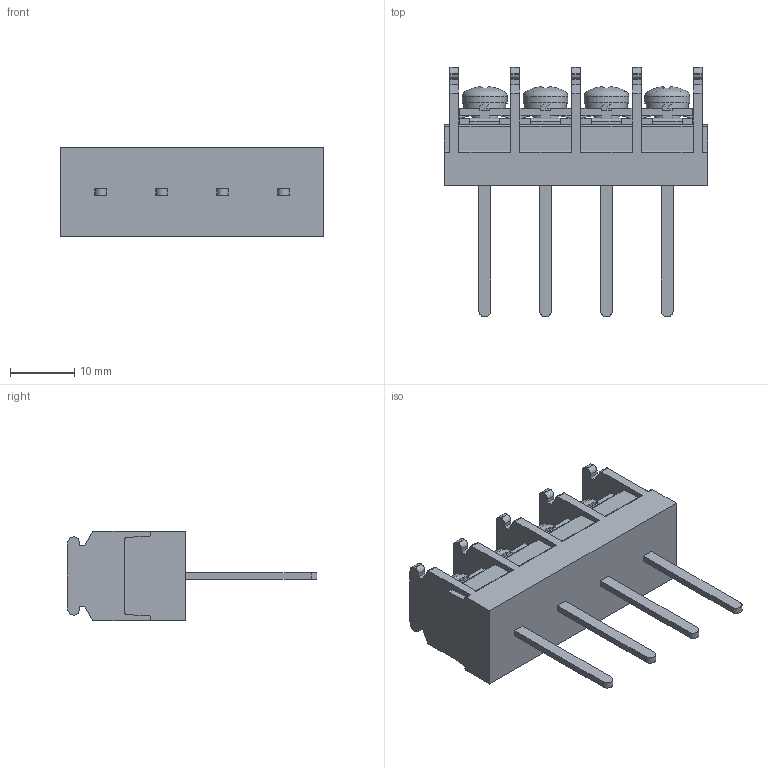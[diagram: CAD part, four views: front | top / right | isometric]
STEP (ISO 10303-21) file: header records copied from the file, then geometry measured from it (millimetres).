
FILE_DESCRIPTION(/* description */ ('Alibre Inc.'),/* implementation_level */ '2;1');
FILE_NAME(/* name */ 'export-EE880110-C475-4890-BC58-B12192FD6605',/* time_stamp */ '2021-02-13T15:11:47+09:00',/* author */ (''),/* organization */ (''),/* preprocessor_version */ 'ST-DEVELOPER v17',/* originating_system */ 'Alibre',/* authorisation */ '');
FILE_SCHEMA (('CONFIG_CONTROL_DESIGN'));
Length unit declared in the file: millimetre
Bounding box: 41.2 x 39 x 14 mm (x, y, z)
Volume: 7122.6 mm3; surface area: 5287 mm2
Topology: 1 solids, 21 shells, 876 faces, 2414 edges, 1592 vertices
Faces by surface type: plane 644, bspline 104, cylinder 96, cone 20, torus 8, sphere 4
Full cylindrical faces by diameter (mm): 4 x8, 7 x4
Entity records: 26683 total; most frequent: CARTESIAN_POINT 5810, ORIENTED_EDGE 4764, DIRECTION 3266, EDGE_CURVE 2382, VECTOR 1762, LINE 1762, VERTEX_POINT 1584, AXIS2_PLACEMENT_3D 1056
